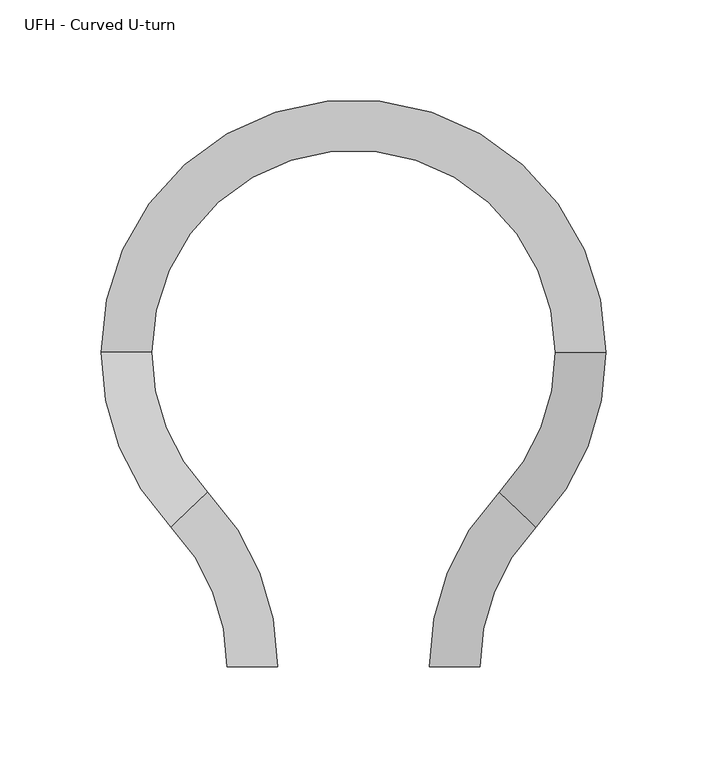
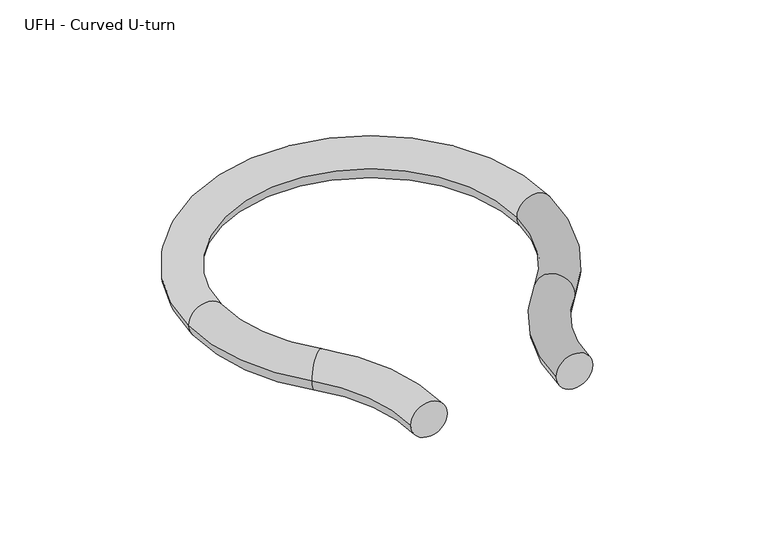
"""IFC4 building model written with IfcOpenShell, lengths in millimetres: pipe fitting geometry, UFH - Curved U-turn : Superpipe 2+ UFH Curved U-turn  - VA100."""

from ifc_helpers import new_model, si_unit, point, frame, origin, place, context, project, spatial, circle_curve, ellipse_curve, trimmed, source, transform, mapped, element, save
from ifc_brep_helpers import plane_surface, revolved_surface, advanced_brep


def ufh_curved_u_turn_f083e44c(model_context):
    return source(origin(), model_context, "Body", "AdvancedBrep", [
        advanced_brep(
        [(12.5, 0.0, 0.0), (-12.5, 0.0, 0.0), (-40.2777778, 69.1661089, 0.0), (-22.2222222, 86.4576361, 0.0), (-75.0000001, 155.623745, 0.0), (-50.0000001, 155.623745, 0.0), (174.9999999, 155.623745, 0.0), (149.9999999, 155.623745, 0.0), (140.2777777, 69.1661089, 0.0), (122.2222221, 86.4576361, 0.0), (87.5, 0.0, 0.0), (112.5, 0.0, 0.0)],
        [
            (0, 1, circle_curve(frame((0.0, 0.0, 0.0), z_axis=(0.0, -1.0, 0.0), x_axis=(-1.0, 0.0, 0.0)), 12.5)),
            (1, 0, circle_curve(frame((0.0, 0.0, 0.0), z_axis=(0.0, -1.0, 0.0), x_axis=(-1.0, 0.0, 0.0)), 12.5)),
            (2, 1, circle_curve(frame((-112.5, 0.0, 0.0), z_axis=(0.0, 0.0, -1.0), x_axis=(1.0, 0.0, 0.0)), 100.0)),
            (0, 3, circle_curve(frame((-112.5, 0.0, 0.0), z_axis=(0.0, 0.0, 1.0), x_axis=(1.0, 0.0, 0.0)), 125.0)),
            (3, 2, circle_curve(frame((-31.25, 77.8118725, 0.0), z_axis=(0.6916610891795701, -0.7222222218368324, 0.0), x_axis=(-0.7222222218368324, -0.6916610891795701, 0.0)), 12.5)),
            (2, 3, circle_curve(frame((-31.25, 77.8118725, 0.0), z_axis=(0.6916610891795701, -0.7222222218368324, 0.0), x_axis=(-0.7222222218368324, -0.6916610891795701, 0.0)), 12.5)),
            (4, 2, circle_curve(frame((49.9999999, 155.623745, 0.0), z_axis=(0.0, 0.0, 1.0), x_axis=(-0.722222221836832, -0.6916610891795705, 0.0)), 125.0)),
            (3, 5, circle_curve(frame((49.9999999, 155.623745, 0.0), z_axis=(0.0, 0.0, -1.0), x_axis=(-0.722222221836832, -0.6916610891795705, 0.0)), 100.0)),
            (5, 4, circle_curve(frame((-62.5000001, 155.623745, 0.0), z_axis=(0.0, -1.0, 0.0), x_axis=(-1.0, 0.0, 0.0)), 12.5)),
            (4, 5, circle_curve(frame((-62.5000001, 155.623745, 0.0), z_axis=(0.0, -1.0, 0.0), x_axis=(-1.0, 0.0, 0.0)), 12.5)),
            (6, 4, circle_curve(frame((49.9999999, 155.623745, 0.0), z_axis=(0.0, 0.0, 1.0), x_axis=(-1.0, 0.0, 0.0)), 125.0)),
            (5, 7, circle_curve(frame((49.9999999, 155.623745, 0.0), z_axis=(0.0, 0.0, -1.0), x_axis=(-1.0, 0.0, 0.0)), 100.0)),
            (7, 6, circle_curve(frame((162.4999999, 155.623745, 0.0), z_axis=(0.0, 1.0, 0.0), x_axis=(1.0, 0.0, 0.0)), 12.5)),
            (6, 7, circle_curve(frame((162.4999999, 155.623745, 0.0), z_axis=(0.0, 1.0, 0.0), x_axis=(1.0, 0.0, 0.0)), 12.5)),
            (8, 6, circle_curve(frame((49.9999999, 155.623745, 0.0), z_axis=(0.0, 0.0, 1.0), x_axis=(1.0, 0.0, 0.0)), 125.0)),
            (7, 9, circle_curve(frame((49.9999999, 155.623745, 0.0), z_axis=(0.0, 0.0, -1.0), x_axis=(1.0, 0.0, 0.0)), 100.0)),
            (9, 8, circle_curve(frame((131.2499999, 77.8118725, 0.0), z_axis=(0.691661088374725, 0.7222222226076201, 0.0), x_axis=(0.7222222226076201, -0.691661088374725, 0.0)), 12.5)),
            (8, 9, circle_curve(frame((131.2499999, 77.8118725, 0.0), z_axis=(0.6916610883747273, 0.7222222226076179, 0.0), x_axis=(0.7222222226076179, -0.6916610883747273, 0.0)), 12.5)),
            (10, 11, circle_curve(frame((100.0, 0.0, 0.0), z_axis=(0.0, -0.9999999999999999, 0.0), x_axis=(0.9999999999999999, 0.0, 0.0)), 12.5)),
            (11, 10, circle_curve(frame((100.0, 0.0, 0.0), z_axis=(0.0, -0.9999999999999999, 0.0), x_axis=(0.9999999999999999, 0.0, 0.0)), 12.5)),
            (11, 8, circle_curve(frame((212.5, 0.0, 0.0), z_axis=(0.0, 0.0, -1.0), x_axis=(-0.7222222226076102, 0.6916610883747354, 0.0)), 100.0)),
            (9, 10, circle_curve(frame((212.5, 0.0, 0.0), z_axis=(0.0, 0.0, 1.0), x_axis=(-0.7222222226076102, 0.6916610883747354, 0.0)), 125.0)),
        ],
        [
            plane_surface(frame((0.0, 0.0, 0.0), z_axis=(0.0, -1.0, 0.0), x_axis=(0.0, 0.0, 1.0))),
            revolved_surface(trimmed(ellipse_curve(frame((0.0, 0.0, 0.0), z_axis=(0.0, -1.0, 0.0), x_axis=(-1.0, 0.0, 0.0)), 12.5, 12.5), [point((12.5, 0.0, 0.0))], [point((-12.5, 0.0, 0.0))], True, "CARTESIAN"), (-112.5, 0.0, 0.0), (0.0, 0.0, 1.0)),
            revolved_surface(trimmed(ellipse_curve(frame((0.0, 0.0, 0.0), z_axis=(0.0, -1.0, 0.0), x_axis=(-1.0, 0.0, 0.0)), 12.5, 12.5), [point((-12.5, 0.0, 0.0))], [point((12.5, 0.0, 0.0))], True, "CARTESIAN"), (-112.5, 0.0, 0.0), (0.0, 0.0, 1.0)),
            revolved_surface(trimmed(ellipse_curve(frame((-31.2500001, 77.8118724, 0.0), z_axis=(0.6916610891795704, -0.7222222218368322, 0.0), x_axis=(-0.7222222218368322, -0.6916610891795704, 0.0)), 12.5, 12.5), [point((-22.2222223, 86.4576361, 0.0))], [point((-40.2777779, 69.1661088, 0.0))], True, "CARTESIAN"), (49.9999999, 155.623745, 0.0), (0.0, 0.0, -1.0)),
            revolved_surface(trimmed(ellipse_curve(frame((-31.2500001, 77.8118724, 0.0), z_axis=(0.6916610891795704, -0.7222222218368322, 0.0), x_axis=(-0.7222222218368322, -0.6916610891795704, 0.0)), 12.5, 12.5), [point((-40.2777779, 69.1661088, 0.0))], [point((-22.2222223, 86.4576361, 0.0))], True, "CARTESIAN"), (49.9999999, 155.623745, 0.0), (0.0, 0.0, -1.0)),
            revolved_surface(trimmed(ellipse_curve(frame((-62.5000001, 155.623745, 0.0), z_axis=(0.0, -1.0, 0.0), x_axis=(-1.0, 0.0, 0.0)), 12.5, 12.5), [point((-50.0000001, 155.623745, 0.0))], [point((-75.0000001, 155.623745, 0.0))], True, "CARTESIAN"), (49.9999999, 155.623745, 0.0), (0.0, 0.0, -1.0)),
            revolved_surface(trimmed(ellipse_curve(frame((-62.5000001, 155.623745, 0.0), z_axis=(0.0, -1.0, 0.0), x_axis=(-1.0, 0.0, 0.0)), 12.5, 12.5), [point((-75.0000001, 155.623745, 0.0))], [point((-50.0000001, 155.623745, 0.0))], True, "CARTESIAN"), (49.9999999, 155.623745, 0.0), (0.0, 0.0, -1.0)),
            revolved_surface(trimmed(ellipse_curve(frame((162.4999999, 155.623745, 0.0), z_axis=(0.0, 1.0, 0.0), x_axis=(1.0, 0.0, 0.0)), 12.5, 12.5), [point((149.9999999, 155.623745, 0.0))], [point((174.9999999, 155.623745, 0.0))], True, "CARTESIAN"), (49.9999999, 155.623745, 0.0), (0.0, 0.0, -1.0)),
            revolved_surface(trimmed(ellipse_curve(frame((162.4999999, 155.623745, 0.0), z_axis=(0.0, 1.0, 0.0), x_axis=(1.0, 0.0, 0.0)), 12.5, 12.5), [point((174.9999999, 155.623745, 0.0))], [point((149.9999999, 155.623745, 0.0))], True, "CARTESIAN"), (49.9999999, 155.623745, 0.0), (0.0, 0.0, -1.0)),
            plane_surface(frame((100.0, 0.0, 0.0), z_axis=(0.0, -1.0, 0.0), x_axis=(0.0, 0.0, 1.0))),
            revolved_surface(trimmed(ellipse_curve(frame((131.25, 77.8118724, 0.0), z_axis=(0.6916610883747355, 0.72222222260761, 0.0), x_axis=(0.72222222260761, -0.6916610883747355, 0.0)), 12.5, 12.5), [point((122.2222222, 86.457636, 0.0))], [point((140.2777778, 69.1661088, 0.0))], True, "CARTESIAN"), (212.5, 0.0, 0.0), (0.0, 0.0, 1.0)),
            revolved_surface(trimmed(ellipse_curve(frame((131.25, 77.8118724, 0.0), z_axis=(0.6916610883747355, 0.72222222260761, 0.0), x_axis=(0.72222222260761, -0.6916610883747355, 0.0)), 12.5, 12.5), [point((140.2777778, 69.1661088, 0.0))], [point((122.2222222, 86.457636, 0.0))], True, "CARTESIAN"), (212.5, 0.0, 0.0), (0.0, 0.0, 1.0)),
        ],
        [
            (0, [[1, 2]]),
            (1, [[3, -1, 4, 5]]),
            (2, [[-4, -2, -3, 6]]),
            (3, [[7, -5, 8, 9]]),
            (4, [[-8, -6, -7, 10]]),
            (5, [[11, -9, 12, 13]]),
            (6, [[-12, -10, -11, 14]]),
            (7, [[15, -13, 16, 17]]),
            (8, [[-16, -14, -15, 18]]),
            (9, [[19, 20]]),
            (10, [[21, -17, 22, -20]]),
            (11, [[-22, -18, -21, -19]]),
        ],
    ),
    ])


if __name__ == "__main__":
    model = new_model("IFC4")
    model_context = context("Model", 3, world=origin())
    ifc_project = project(units=[si_unit("LENGTHUNIT", "METRE", prefix="MILLI")], contexts=[model_context])
    site = spatial("IfcSite", under=ifc_project)
    building = spatial("IfcBuilding", under=site)
    placement = place(None, origin())
    ufh_curved_u_turn_shape = ufh_curved_u_turn_f083e44c(model_context)
    element("IfcPipeFitting", 1, ObjectType="UFH - Curved U-turn : Superpipe 2+ UFH Curved U-turn  - VA100", at=placement, inside=building, context=model_context, shape_type="MappedRepresentation", body=[
        mapped(ufh_curved_u_turn_shape, transform((0.0, 0.0, 0.0), x_axis=(1.0, 0.0, 0.0), y_axis=(0.0, 1.0, 0.0), z_axis=(0.0, 0.0, 1.0))),
    ])
    save(model, "model.ifc")
